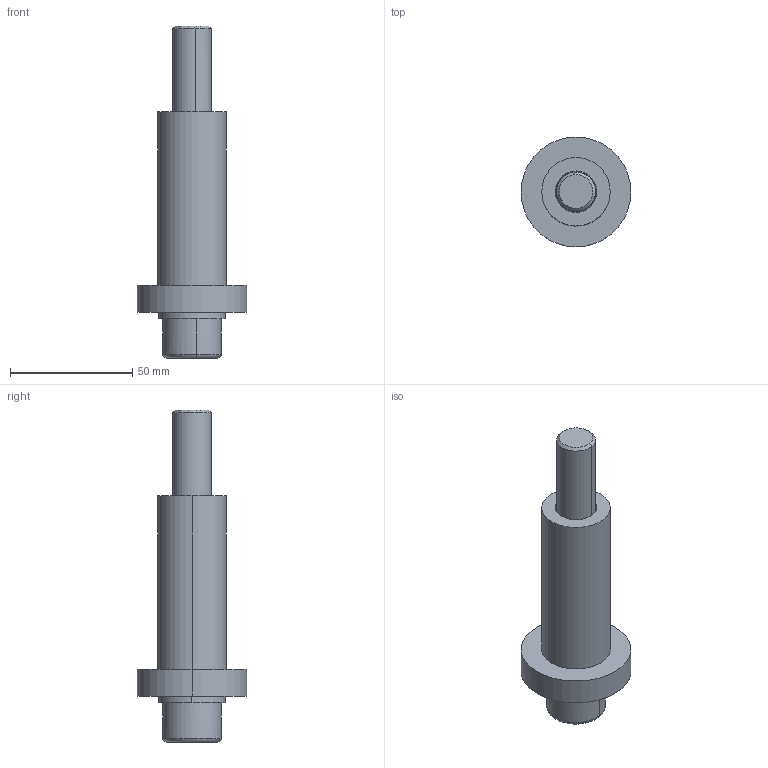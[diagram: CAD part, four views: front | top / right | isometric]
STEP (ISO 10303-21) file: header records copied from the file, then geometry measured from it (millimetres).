
FILE_DESCRIPTION(('CATIA V5 STEP Exchange'),'2;1');
FILE_NAME('C:\Users\Utente\Desktop\IO LAVORO\3D X SITO CF\X SITO\M312-08\M312-08-16.stp','2020-12-04T19:26:56+00:00',('none'),('none'),'CATIA Version 5 Release 20 GA (IN-10)','CATIA V5 STEP AP203','none');
FILE_SCHEMA(('CONFIG_CONTROL_DESIGN'));
Length unit declared in the file: millimetre
Products named in the file (1): M312-08-16
Assembly tree (1 placements, depth 2):
  M312-08-16
    #58
Bounding box: 45 x 45 x 136 mm (x, y, z)
Volume: 73437.2 mm3; surface area: 23473.4 mm2
Topology: 1 solids, 1 shells, 50 faces, 114 edges, 69 vertices
Faces by surface type: plane 22, cylinder 16, torus 8, cone 4
Entity records: 1635 total; most frequent: CARTESIAN_POINT 502, ORIENTED_EDGE 224, DIRECTION 195, EDGE_CURVE 112, AXIS2_PLACEMENT_3D 91, VERTEX_POINT 69, EDGE_LOOP 57, VECTOR 52
